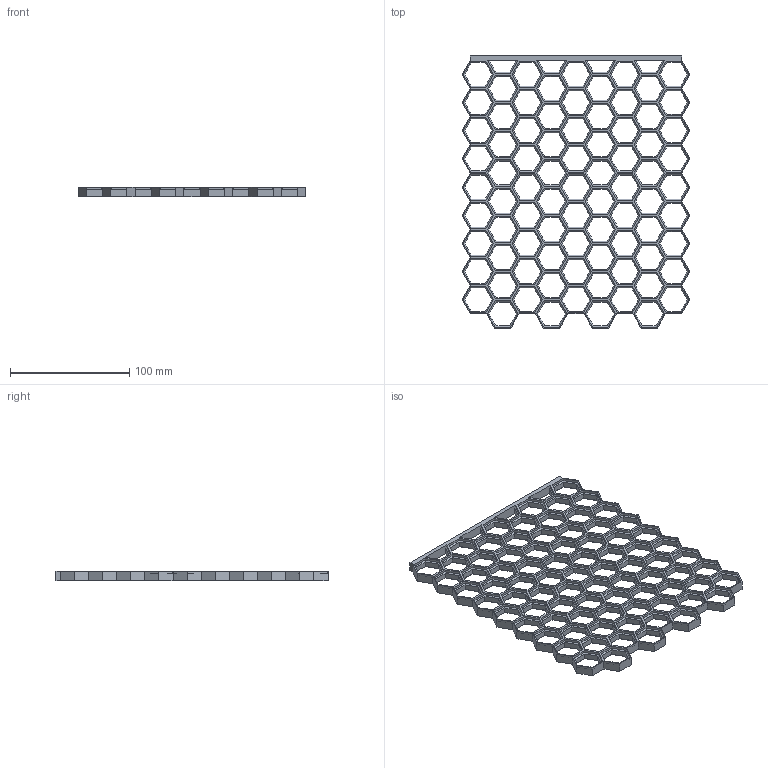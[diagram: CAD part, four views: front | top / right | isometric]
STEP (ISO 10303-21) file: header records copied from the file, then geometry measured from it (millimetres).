
FILE_DESCRIPTION(/* description */ (''),/* implementation_level */ '2;1');
FILE_NAME(/* name */ 'wall-honeycomb sortierseytem v1.step',/* time_stamp */ '2023-07-05T03:49:45+02:00',/* author */ (''),/* organization */ (''),/* preprocessor_version */ 'ST-DEVELOPER v19.2',/* originating_system */ 'Autodesk Translation Framework v12.6.0.85',/* authorisation */ '');
FILE_SCHEMA (('AUTOMOTIVE_DESIGN { 1 0 10303 214 3 1 1 }'));
Length unit declared in the file: millimetre
Products named in the file (1): wall-honeycomb sortierseytem
Bounding box: 190.76 x 227.8 x 8 mm (x, y, z)
Volume: 80027.3 mm3; surface area: 74451.9 mm2
Topology: 1 solids, 1 shells, 2054 faces, 4674 edges, 2622 vertices
Faces by surface type: plane 2054
Entity records: 54782 total; most frequent: CARTESIAN_POINT 9351, ORIENTED_EDGE 9348, DIRECTION 8784, LINE 4674, VECTOR 4674, EDGE_CURVE 4674, VERTEX_POINT 2622, EDGE_LOOP 2224
